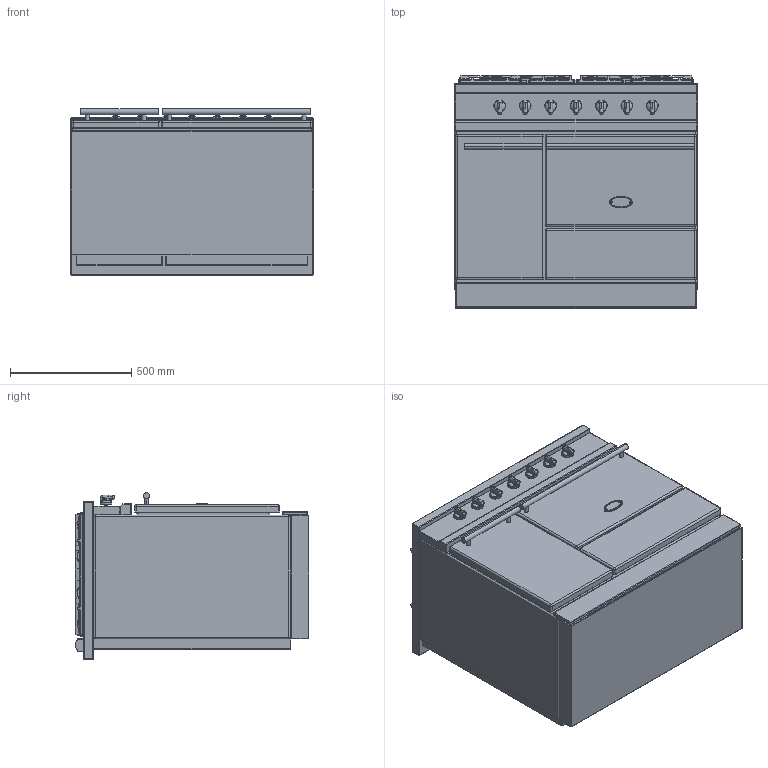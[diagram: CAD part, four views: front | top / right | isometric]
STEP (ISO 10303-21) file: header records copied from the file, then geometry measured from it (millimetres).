
FILE_DESCRIPTION((''),'2;1');
FILE_NAME('LMG1051_VOLNAY_ASM','2022-04-13T11:59:49',('stagiaire'),(''),'CREO PARAMETRIC BY PTC INC, 2021424','CREO PARAMETRIC BY PTC INC, 2021424','');
FILE_SCHEMA(('AP203_CONFIGURATION_CONTROLLED_3D_DESIGN_OF_MECHANICAL_PARTS_AND_ASSEMBLIES_MIM_LF { 1 0 10303 403 2 1 2 }'));
Products named in the file (20): BASE_EXPORT_VOLNAY_MODERN; 65049009; 65650001; 65064012; 19150009; 88064012_ASM; BASE_EXPORT_VOLNAY_MODERN_ASM; TABLE_1000_CLASSIQUE; 3KW; 5KW; 1_5KW; 4KW; 6537025; 65149005; 90000488_ASM; 6537024; 90000487_ASM; CHEMINEE_2020_LG371_EXPORT_STEP; TABLE_1000_CLASSIQUE_ASM; LMG1051_VOLNAY_ASM
Assembly tree (36 placements, depth 4):
  LMG1051_VOLNAY_ASM
    BASE_EXPORT_VOLNAY_MODERN_ASM
      BASE_EXPORT_VOLNAY_MODERN
      65049009
      65650001
      88064012_ASM  x7
        65064012
        19150009
    TABLE_1000_CLASSIQUE_ASM
      TABLE_1000_CLASSIQUE
      3KW  x2
      5KW
      1_5KW
      4KW
      90000488_ASM  x2
        6537025
        65149005
      90000487_ASM  x2
        6537024
        65149005
      CHEMINEE_2020_LG371_EXPORT_STEP  x2
Bounding box: 1000 x 965 x 687.5 mm (x, y, z)
Volume: 533368703.7 mm3; surface area: 8766232.4 mm2
Topology: 49 solids, 49 shells, 5702 faces, 15575 edges, 9970 vertices
Faces by surface type: cylinder 1854, plane 1691, bspline 1325, cone 323, sphere 316, torus 151, extrusion 42
Entity records: 128429 total; most frequent: CARTESIAN_POINT 45204, ORIENTED_EDGE 13170, DIRECTION 11997, EDGE_CURVE 6585, PRESENTATION_STYLE_ASSIGNMENT 4336, STYLED_ITEM 4336, CURVE_STYLE 4208, AXIS2_PLACEMENT_3D 4086
